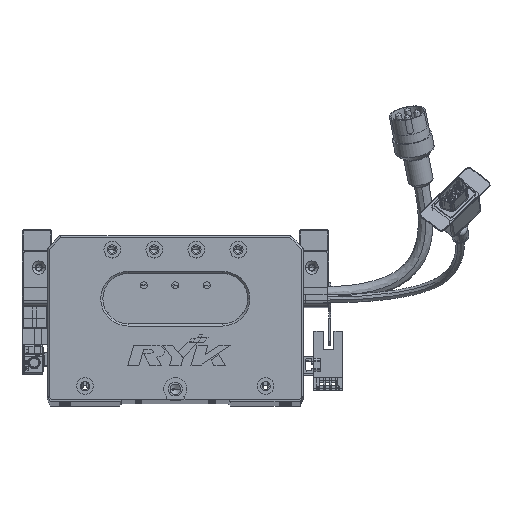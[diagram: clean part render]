
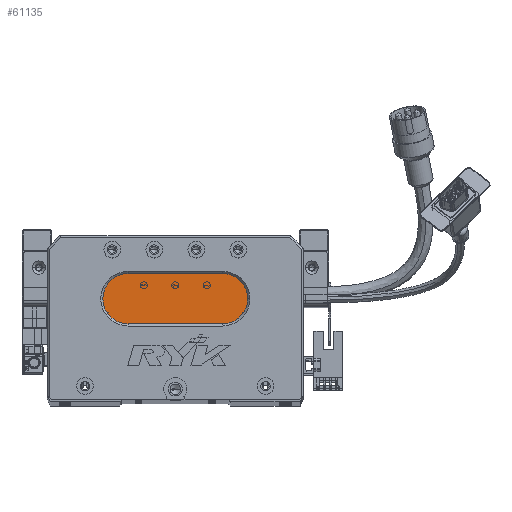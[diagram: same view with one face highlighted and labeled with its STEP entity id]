
A CAD part, top view. The second image highlights one B-rep face of the part: STEP entity #61135.
In plain terms, the highlighted planar face has unit normal (0, 0, 1) as drawn and (0, 0, -1) by its records, which use the part's own axes.
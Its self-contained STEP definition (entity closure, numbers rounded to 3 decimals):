
#2254 = EDGE_CURVE ( 'NONE', #19487, #82142, #27639, .T. ) ;
#2414 = DIRECTION ( 'NONE',  ( -1., 0., 0. ) ) ;
#2461 = ORIENTED_EDGE ( 'NONE', *, *, #27328, .T. ) ;
#2826 = DIRECTION ( 'NONE',  ( -1., 0., 0. ) ) ;
#3444 = EDGE_CURVE ( 'NONE', #38718, #19487, #61498, .T. ) ;
#6371 = DIRECTION ( 'NONE',  ( 0., 0., -1. ) ) ;
#10197 = LINE ( 'NONE', #61729, #61515 ) ;
#12235 = CARTESIAN_POINT ( 'NONE',  ( 38.5, 60., 13. ) ) ;
#18835 = AXIS2_PLACEMENT_3D ( 'NONE', #31394, #66569, #25723 ) ;
#19487 = VERTEX_POINT ( 'NONE', #44323 ) ;
#21292 = CARTESIAN_POINT ( 'NONE',  ( 83.5, 48., 13. ) ) ;
#23642 = DIRECTION ( 'NONE',  ( 0., 0., -1. ) ) ;
#25723 = DIRECTION ( 'NONE',  ( -1., 0., 0. ) ) ;
#27328 = EDGE_CURVE ( 'NONE', #38986, #69016, #82339, .T. ) ;
#27639 = LINE ( 'NONE', #71496, #30813 ) ;
#27717 = ORIENTED_EDGE ( 'NONE', *, *, #2254, .T. ) ;
#28188 = DIRECTION ( 'NONE',  ( -1., 0., 0. ) ) ;
#30813 = VECTOR ( 'NONE', #2826, 1000. ) ;
#31394 = CARTESIAN_POINT ( 'NONE',  ( 83.5, 48., 13. ) ) ;
#33833 = CARTESIAN_POINT ( 'NONE',  ( 38.5, 36., 13. ) ) ;
#33898 = CARTESIAN_POINT ( 'NONE',  ( 38.5, 48., 13. ) ) ;
#34656 = EDGE_CURVE ( 'NONE', #69016, #38718, #10197, .T. ) ;
#37623 = AXIS2_PLACEMENT_3D ( 'NONE', #77629, #23642, #2414 ) ;
#38718 = VERTEX_POINT ( 'NONE', #78990 ) ;
#38986 = VERTEX_POINT ( 'NONE', #42814 ) ;
#40551 = FACE_OUTER_BOUND ( 'NONE', #78573, .T. ) ;
#42814 = CARTESIAN_POINT ( 'NONE',  ( 26.5, 48., 13. ) ) ;
#44323 = CARTESIAN_POINT ( 'NONE',  ( 83.5, 36., 13. ) ) ;
#56083 = ORIENTED_EDGE ( 'NONE', *, *, #80603, .T. ) ;
#59496 = ORIENTED_EDGE ( 'NONE', *, *, #34656, .T. ) ;
#59710 = PLANE ( 'NONE',  #18835 ) ;
#61135 = ADVANCED_FACE ( 'NONE', ( #40551 ), #59710, .T. ) ;
#61498 = CIRCLE ( 'NONE', #63471, 12. ) ;
#61515 = VECTOR ( 'NONE', #74311, 1000. ) ;
#61729 = CARTESIAN_POINT ( 'NONE',  ( 83.5, 60., 13. ) ) ;
#63471 = AXIS2_PLACEMENT_3D ( 'NONE', #21292, #74111, #28188 ) ;
#63477 = AXIS2_PLACEMENT_3D ( 'NONE', #33898, #6371, #66706 ) ;
#66569 = DIRECTION ( 'NONE',  ( 0., 0., -1. ) ) ;
#66706 = DIRECTION ( 'NONE',  ( -1., 0., 0. ) ) ;
#69016 = VERTEX_POINT ( 'NONE', #12235 ) ;
#71496 = CARTESIAN_POINT ( 'NONE',  ( 83.5, 36., 13. ) ) ;
#74111 = DIRECTION ( 'NONE',  ( 0., 0., -1. ) ) ;
#74311 = DIRECTION ( 'NONE',  ( 1., 0., 0. ) ) ;
#76208 = CIRCLE ( 'NONE', #63477, 12. ) ;
#77629 = CARTESIAN_POINT ( 'NONE',  ( 38.5, 48., 13. ) ) ;
#77923 = ORIENTED_EDGE ( 'NONE', *, *, #3444, .T. ) ;
#78573 = EDGE_LOOP ( 'NONE', ( #77923, #27717, #56083, #2461, #59496 ) ) ;
#78990 = CARTESIAN_POINT ( 'NONE',  ( 83.5, 60., 13. ) ) ;
#80603 = EDGE_CURVE ( 'NONE', #82142, #38986, #76208, .T. ) ;
#82142 = VERTEX_POINT ( 'NONE', #33833 ) ;
#82339 = CIRCLE ( 'NONE', #37623, 12. ) ;
